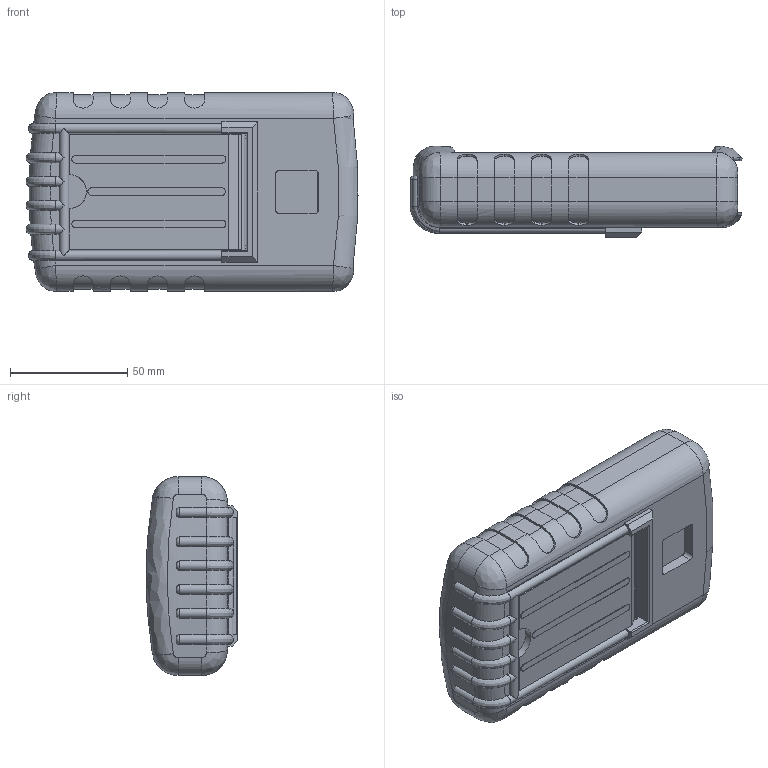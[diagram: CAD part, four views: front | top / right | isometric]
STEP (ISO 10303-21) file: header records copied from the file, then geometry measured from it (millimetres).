
FILE_DESCRIPTION (( 'STEP AP214' ), '1' );
FILE_NAME ('50-12-NO-F-BO.STEP', '2020-09-21T20:44:30', ( 'Rudy' ), ( '' ), 'SwSTEP 2.0', 'SolidWorks 2014', '' );
FILE_SCHEMA (( 'AUTOMOTIVE_DESIGN' ));
Length unit declared in the file: millimetre
Products named in the file (9): 50 RBT Boot; 50 RBT Stand; 50 Cavity; 50 PCB No Bat; 50_end panel; 50 base no bat; 50 top-flush; 50-12-NO-F-BO
Assembly tree (8 placements, depth 3):
  50-12-NO-F-BO
    50 top-flush
    50 base no bat
    50_end panel
    50 PCB No Bat
    50 RBT Boot
      50 RBT Boot
      50 Cavity
      50 RBT Stand
Bounding box: 141.82 x 38.99 x 84.99 mm (x, y, z)
Volume: 395840 mm3; surface area: 170341.8 mm2
Topology: 8 solids, 8 shells, 857 faces, 2372 edges, 1536 vertices
Faces by surface type: plane 513, cylinder 234, bspline 65, cone 24, sphere 12, torus 9
Entity records: 31591 total; most frequent: CARTESIAN_POINT 10080, ORIENTED_EDGE 4720, DIRECTION 4054, EDGE_CURVE 2360, LINE 1552, VECTOR 1552, VERTEX_POINT 1536, AXIS2_PLACEMENT_3D 1251
